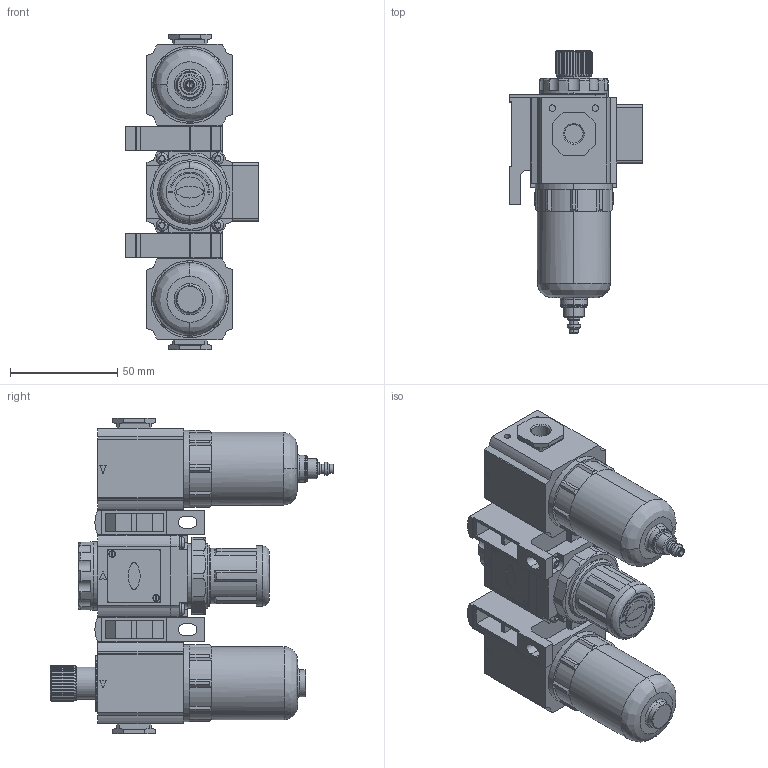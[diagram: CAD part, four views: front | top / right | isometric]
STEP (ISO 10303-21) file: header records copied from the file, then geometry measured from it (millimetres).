
FILE_DESCRIPTION (( 'STEP AP214' ), '1' );
FILE_NAME ('GC-200-06-F1.STEP', '2016-01-22T14:58:50', ( '' ), ( '' ), 'SwSTEP 2.0', 'SolidWorks 2016', '' );
FILE_SCHEMA (( 'AUTOMOTIVE_DESIGN' ));
Length unit declared in the file: millimetre
Products named in the file (29): 25; 16; 15; 9; 24; 19; 8; 1; 4; 3; GC-200-06-F1; 5; 13; 28; 2; 27; 26; 21; 20; 18; 11; 17; 10; 22; 14; 12; 7; 6; 23
Assembly tree (28 placements, depth 2):
  GC-200-06-F1
    1
    2
    3
    4
    5
    6
    7
    8
    9
    10
    11
    12
    13
    14
    15
    16
    17
    18
    19
    20
    21
    22
    23
    24
    25
    26
    27
    28
Bounding box: 62 x 132 x 147 mm (x, y, z)
Volume: 286822.7 mm3; surface area: 103405.5 mm2
Topology: 28 solids, 28 shells, 1705 faces, 4321 edges, 2830 vertices
Faces by surface type: plane 1012, cylinder 499, cone 109, bspline 85
Entity records: 74659 total; most frequent: CARTESIAN_POINT 13288, ORIENTED_EDGE 8636, DIRECTION 8592, EDGE_CURVE 4318, AXIS2_PLACEMENT_3D 2969, VERTEX_POINT 2830, VECTOR 2654, LINE 2654
